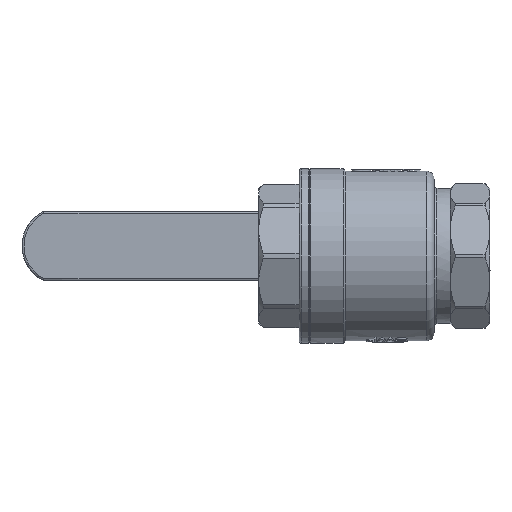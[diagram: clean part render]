
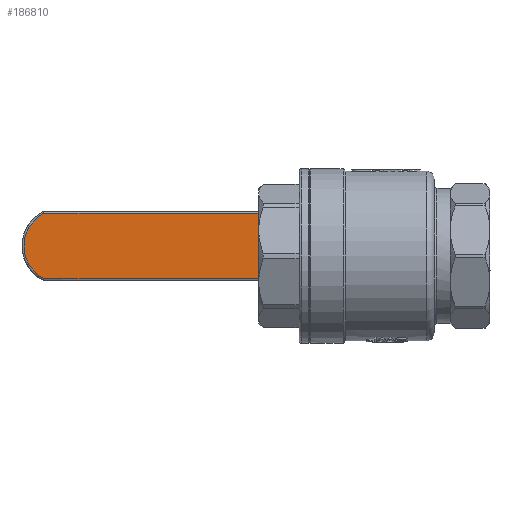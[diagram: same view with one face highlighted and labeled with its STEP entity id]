
A CAD part, front view. The second image highlights one B-rep face of the part: STEP entity #186810.
In plain terms, the highlighted planar face has unit normal (0, -1, 0).
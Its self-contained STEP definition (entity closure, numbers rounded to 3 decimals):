
#2880 = AXIS2_PLACEMENT_3D ( 'NONE', #188216, #5171, #111775 ) ;
#5171 = DIRECTION ( 'NONE',  ( 0., 1., 0. ) ) ;
#17166 = ORIENTED_EDGE ( 'NONE', *, *, #185082, .T. ) ;
#18239 = VERTEX_POINT ( 'NONE', #65489 ) ;
#20846 = CARTESIAN_POINT ( 'NONE',  ( -123.134, -5., -16.45 ) ) ;
#21924 = DIRECTION ( 'NONE',  ( 0., -1., 0. ) ) ;
#22131 = LINE ( 'NONE', #150487, #139028 ) ;
#37578 = ORIENTED_EDGE ( 'NONE', *, *, #49955, .T. ) ;
#42268 = EDGE_LOOP ( 'NONE', ( #163972, #17166, #37578, #64441 ) ) ;
#49955 = EDGE_CURVE ( 'NONE', #164162, #101884, #141344, .T. ) ;
#62804 = LINE ( 'NONE', #88382, #103425 ) ;
#64441 = ORIENTED_EDGE ( 'NONE', *, *, #103036, .T. ) ;
#65489 = CARTESIAN_POINT ( 'NONE',  ( -123.134, -5., 16.45 ) ) ;
#82795 = CARTESIAN_POINT ( 'NONE',  ( -124., -5., -16.45 ) ) ;
#88382 = CARTESIAN_POINT ( 'NONE',  ( -123.134, -5., -17.45 ) ) ;
#101884 = VERTEX_POINT ( 'NONE', #152012 ) ;
#103036 = EDGE_CURVE ( 'NONE', #101884, #18239, #22131, .T. ) ;
#103425 = VECTOR ( 'NONE', #180226, 1000. ) ;
#111775 = DIRECTION ( 'NONE',  ( 0., 0., 1. ) ) ;
#113205 = CARTESIAN_POINT ( 'NONE',  ( -18.5, -5., 0. ) ) ;
#128585 = DIRECTION ( 'NONE',  ( 0., 0., 1. ) ) ;
#139028 = VECTOR ( 'NONE', #196821, 1000. ) ;
#141344 = CIRCLE ( 'NONE', #155230, 18.5 ) ;
#150487 = CARTESIAN_POINT ( 'NONE',  ( -123.567, -5., 16.45 ) ) ;
#152012 = CARTESIAN_POINT ( 'NONE',  ( -10.036, -5., 16.45 ) ) ;
#154939 = EDGE_CURVE ( 'NONE', #18239, #190390, #62804, .T. ) ;
#155230 = AXIS2_PLACEMENT_3D ( 'NONE', #113205, #21924, #128585 ) ;
#155592 = VECTOR ( 'NONE', #190052, 1000. ) ;
#157733 = FACE_OUTER_BOUND ( 'NONE', #42268, .T. ) ;
#160412 = LINE ( 'NONE', #82795, #155592 ) ;
#163972 = ORIENTED_EDGE ( 'NONE', *, *, #154939, .T. ) ;
#164097 = CARTESIAN_POINT ( 'NONE',  ( -10.036, -5., -16.45 ) ) ;
#164162 = VERTEX_POINT ( 'NONE', #164097 ) ;
#172769 = PLANE ( 'NONE',  #2880 ) ;
#180226 = DIRECTION ( 'NONE',  ( 0., 0., -1. ) ) ;
#185082 = EDGE_CURVE ( 'NONE', #190390, #164162, #160412, .T. ) ;
#186810 = ADVANCED_FACE ( 'NONE', ( #157733 ), #172769, .F. ) ;
#188216 = CARTESIAN_POINT ( 'NONE',  ( -124., -5., 16.45 ) ) ;
#190052 = DIRECTION ( 'NONE',  ( 1., 0., 0. ) ) ;
#190390 = VERTEX_POINT ( 'NONE', #20846 ) ;
#196821 = DIRECTION ( 'NONE',  ( -1., 0., 0. ) ) ;
